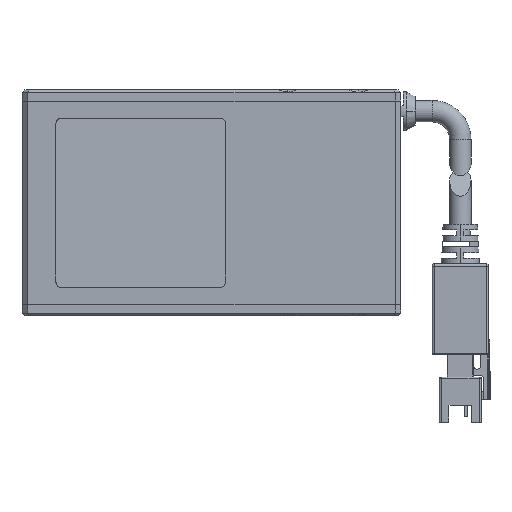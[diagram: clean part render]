
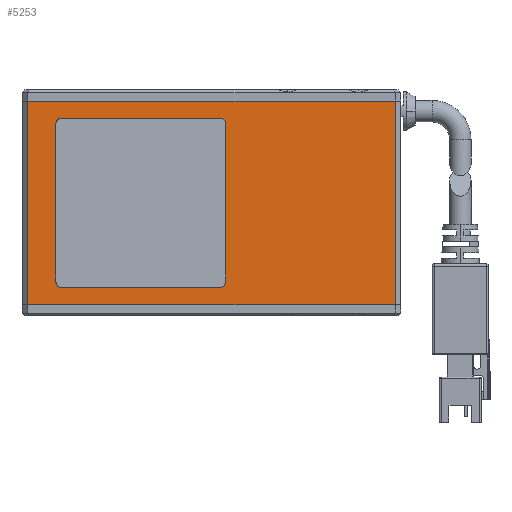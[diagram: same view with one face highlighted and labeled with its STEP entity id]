
A CAD part, left-side view. The second image highlights one B-rep face of the part: STEP entity #5253.
In plain terms, the highlighted planar face has unit normal (-1, 0, 0).
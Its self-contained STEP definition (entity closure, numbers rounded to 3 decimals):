
#447 = VECTOR ( 'NONE', #10272, 1000. ) ;
#608 = CARTESIAN_POINT ( 'NONE',  ( -20., 32.5, 18. ) ) ;
#716 = CARTESIAN_POINT ( 'NONE',  ( -20., 32.5, -18. ) ) ;
#879 = CARTESIAN_POINT ( 'NONE',  ( -20., -2.5, -15. ) ) ;
#1070 = DIRECTION ( 'NONE',  ( 0., 0., -1. ) ) ;
#1328 = ORIENTED_EDGE ( 'NONE', *, *, #3055, .T. ) ;
#1356 = DIRECTION ( 'NONE',  ( 1., 0., 0. ) ) ;
#1441 = DIRECTION ( 'NONE',  ( 0., -1., 0. ) ) ;
#1624 = VERTEX_POINT ( 'NONE', #16353 ) ;
#1813 = CARTESIAN_POINT ( 'NONE',  ( -20., 32.5, 18. ) ) ;
#2029 = VECTOR ( 'NONE', #1441, 1000. ) ;
#2117 = CARTESIAN_POINT ( 'NONE',  ( -20., 27.5, 15. ) ) ;
#2246 = VECTOR ( 'NONE', #8952, 1000. ) ;
#2367 = EDGE_CURVE ( 'NONE', #12410, #3264, #11152, .T. ) ;
#2598 = VERTEX_POINT ( 'NONE', #4716 ) ;
#2751 = VERTEX_POINT ( 'NONE', #15166 ) ;
#2969 = ORIENTED_EDGE ( 'NONE', *, *, #17847, .F. ) ;
#3055 = EDGE_CURVE ( 'NONE', #8909, #3083, #9317, .T. ) ;
#3083 = VERTEX_POINT ( 'NONE', #14734 ) ;
#3264 = VERTEX_POINT ( 'NONE', #14443 ) ;
#3967 = VECTOR ( 'NONE', #7096, 1000. ) ;
#4327 = ORIENTED_EDGE ( 'NONE', *, *, #13304, .T. ) ;
#4422 = AXIS2_PLACEMENT_3D ( 'NONE', #4635, #14247, #6017 ) ;
#4631 = AXIS2_PLACEMENT_3D ( 'NONE', #16152, #9345, #1070 ) ;
#4635 = CARTESIAN_POINT ( 'NONE',  ( -20., 26.5, 14. ) ) ;
#4716 = CARTESIAN_POINT ( 'NONE',  ( -20., 27.5, 14. ) ) ;
#4827 = LINE ( 'NONE', #11092, #2029 ) ;
#5061 = DIRECTION ( 'NONE',  ( 1., 0., 0. ) ) ;
#5253 = ADVANCED_FACE ( 'NONE', ( #16930, #5547 ), #14780, .F. ) ;
#5498 = ORIENTED_EDGE ( 'NONE', *, *, #2367, .F. ) ;
#5547 = FACE_OUTER_BOUND ( 'NONE', #14803, .T. ) ;
#5931 = CIRCLE ( 'NONE', #15058, 1. ) ;
#6017 = DIRECTION ( 'NONE',  ( 0., 0., -1. ) ) ;
#6335 = VERTEX_POINT ( 'NONE', #716 ) ;
#6891 = DIRECTION ( 'NONE',  ( 1., 0., 0. ) ) ;
#7096 = DIRECTION ( 'NONE',  ( 0., 0., -1. ) ) ;
#7360 = DIRECTION ( 'NONE',  ( 0., -1., 0. ) ) ;
#7472 = VECTOR ( 'NONE', #15120, 1000. ) ;
#7530 = VERTEX_POINT ( 'NONE', #608 ) ;
#7881 = LINE ( 'NONE', #879, #17099 ) ;
#8085 = EDGE_CURVE ( 'NONE', #2598, #13235, #15153, .T. ) ;
#8244 = CARTESIAN_POINT ( 'NONE',  ( -20., -32.5, 18. ) ) ;
#8907 = CARTESIAN_POINT ( 'NONE',  ( -20., 32.5, 18. ) ) ;
#8909 = VERTEX_POINT ( 'NONE', #15159 ) ;
#8921 = VERTEX_POINT ( 'NONE', #13846 ) ;
#8952 = DIRECTION ( 'NONE',  ( 0., -1., 0. ) ) ;
#9317 = CIRCLE ( 'NONE', #12175, 1. ) ;
#9345 = DIRECTION ( 'NONE',  ( 1., 0., 0. ) ) ;
#9639 = CARTESIAN_POINT ( 'NONE',  ( -20., -1.5, 14. ) ) ;
#10239 = VECTOR ( 'NONE', #7360, 1000. ) ;
#10272 = DIRECTION ( 'NONE',  ( 0., 0., -1. ) ) ;
#10826 = LINE ( 'NONE', #2117, #14028 ) ;
#10866 = LINE ( 'NONE', #13950, #3967 ) ;
#11006 = DIRECTION ( 'NONE',  ( 0., 0., -1. ) ) ;
#11092 = CARTESIAN_POINT ( 'NONE',  ( -20., 32.5, -18. ) ) ;
#11152 = LINE ( 'NONE', #8244, #7472 ) ;
#11307 = ORIENTED_EDGE ( 'NONE', *, *, #17304, .T. ) ;
#11461 = LINE ( 'NONE', #8907, #447 ) ;
#11758 = DIRECTION ( 'NONE',  ( 0., 1., 0. ) ) ;
#11854 = DIRECTION ( 'NONE',  ( 0., 0., 1. ) ) ;
#11868 = EDGE_CURVE ( 'NONE', #1624, #16523, #5931, .T. ) ;
#12091 = EDGE_CURVE ( 'NONE', #7530, #12410, #13882, .T. ) ;
#12175 = AXIS2_PLACEMENT_3D ( 'NONE', #13296, #5061, #14669 ) ;
#12216 = ORIENTED_EDGE ( 'NONE', *, *, #8085, .T. ) ;
#12294 = CARTESIAN_POINT ( 'NONE',  ( -20., 26.5, 15. ) ) ;
#12410 = VERTEX_POINT ( 'NONE', #16417 ) ;
#12565 = EDGE_LOOP ( 'NONE', ( #17779, #12216, #2969, #13719, #15257, #1328, #12879, #14861 ) ) ;
#12879 = ORIENTED_EDGE ( 'NONE', *, *, #13015, .F. ) ;
#13015 = EDGE_CURVE ( 'NONE', #1624, #3083, #13234, .T. ) ;
#13234 = LINE ( 'NONE', #15815, #2246 ) ;
#13235 = VERTEX_POINT ( 'NONE', #12294 ) ;
#13296 = CARTESIAN_POINT ( 'NONE',  ( -20., -1.5, -14. ) ) ;
#13304 = EDGE_CURVE ( 'NONE', #6335, #3264, #4827, .T. ) ;
#13374 = EDGE_CURVE ( 'NONE', #2598, #16523, #10866, .T. ) ;
#13719 = ORIENTED_EDGE ( 'NONE', *, *, #15826, .T. ) ;
#13846 = CARTESIAN_POINT ( 'NONE',  ( -20., -1.5, 15. ) ) ;
#13882 = LINE ( 'NONE', #1813, #10239 ) ;
#13950 = CARTESIAN_POINT ( 'NONE',  ( -20., 27.5, -15. ) ) ;
#14028 = VECTOR ( 'NONE', #11758, 1000. ) ;
#14077 = CIRCLE ( 'NONE', #16772, 1. ) ;
#14247 = DIRECTION ( 'NONE',  ( 1., 0., 0. ) ) ;
#14443 = CARTESIAN_POINT ( 'NONE',  ( -20., -32.5, -18. ) ) ;
#14669 = DIRECTION ( 'NONE',  ( 0., 0., -1. ) ) ;
#14734 = CARTESIAN_POINT ( 'NONE',  ( -20., -1.5, -15. ) ) ;
#14780 = PLANE ( 'NONE',  #4631 ) ;
#14803 = EDGE_LOOP ( 'NONE', ( #4327, #5498, #17526, #11307 ) ) ;
#14861 = ORIENTED_EDGE ( 'NONE', *, *, #11868, .T. ) ;
#15058 = AXIS2_PLACEMENT_3D ( 'NONE', #15118, #6891, #16500 ) ;
#15118 = CARTESIAN_POINT ( 'NONE',  ( -20., 26.5, -14. ) ) ;
#15120 = DIRECTION ( 'NONE',  ( 0., 0., -1. ) ) ;
#15153 = CIRCLE ( 'NONE', #4422, 1. ) ;
#15159 = CARTESIAN_POINT ( 'NONE',  ( -20., -2.5, -14. ) ) ;
#15166 = CARTESIAN_POINT ( 'NONE',  ( -20., -2.5, 14. ) ) ;
#15257 = ORIENTED_EDGE ( 'NONE', *, *, #15672, .F. ) ;
#15672 = EDGE_CURVE ( 'NONE', #8909, #2751, #7881, .T. ) ;
#15815 = CARTESIAN_POINT ( 'NONE',  ( -20., 27.5, -15. ) ) ;
#15826 = EDGE_CURVE ( 'NONE', #8921, #2751, #14077, .T. ) ;
#16152 = CARTESIAN_POINT ( 'NONE',  ( -20., 32.5, 18. ) ) ;
#16353 = CARTESIAN_POINT ( 'NONE',  ( -20., 26.5, -15. ) ) ;
#16417 = CARTESIAN_POINT ( 'NONE',  ( -20., -32.5, 18. ) ) ;
#16500 = DIRECTION ( 'NONE',  ( 0., 0., -1. ) ) ;
#16523 = VERTEX_POINT ( 'NONE', #16532 ) ;
#16532 = CARTESIAN_POINT ( 'NONE',  ( -20., 27.5, -14. ) ) ;
#16772 = AXIS2_PLACEMENT_3D ( 'NONE', #9639, #1356, #11006 ) ;
#16930 = FACE_BOUND ( 'NONE', #12565, .T. ) ;
#17099 = VECTOR ( 'NONE', #11854, 1000. ) ;
#17304 = EDGE_CURVE ( 'NONE', #7530, #6335, #11461, .T. ) ;
#17526 = ORIENTED_EDGE ( 'NONE', *, *, #12091, .F. ) ;
#17779 = ORIENTED_EDGE ( 'NONE', *, *, #13374, .F. ) ;
#17847 = EDGE_CURVE ( 'NONE', #8921, #13235, #10826, .T. ) ;
